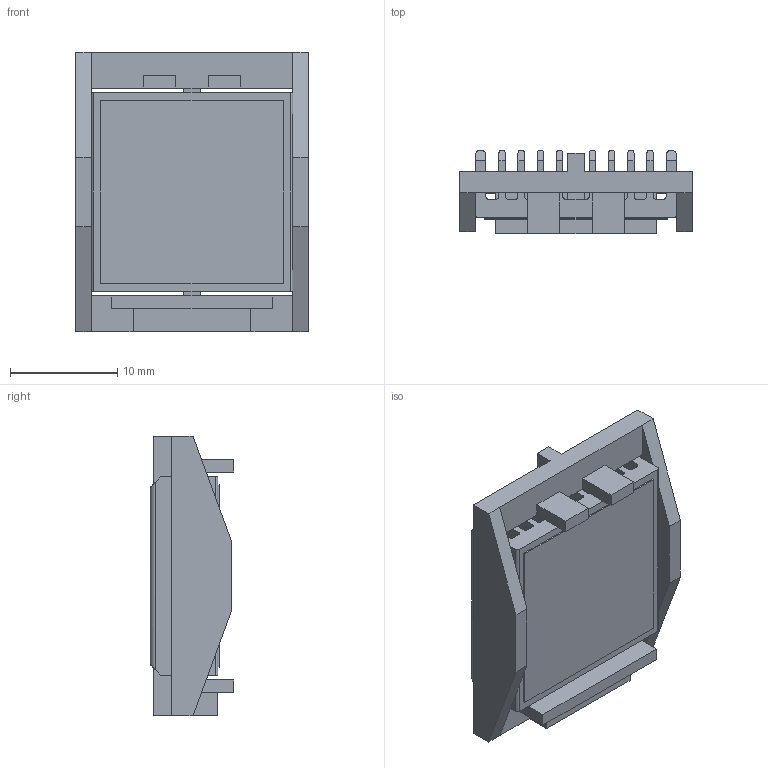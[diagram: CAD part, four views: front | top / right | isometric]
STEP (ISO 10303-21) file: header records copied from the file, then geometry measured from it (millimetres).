
FILE_DESCRIPTION (( 'STEP AP214' ), '1' );
FILE_NAME ('INL19001-6-1.7BU.STEP', '2023-02-20T23:51:50', ( '' ), ( '' ), 'SwSTEP 2.0', 'SolidWorks 2020', '' );
FILE_SCHEMA (( 'AUTOMOTIVE_DESIGN' ));
Length unit declared in the file: millimetre
Products named in the file (1): INL19001-6-1.7BU
Bounding box: 21.7 x 7.8 x 26.1 mm (x, y, z)
Volume: 2004.8 mm3; surface area: 4411.9 mm2
Topology: 3 solids, 3 shells, 136 faces, 392 edges, 260 vertices
Faces by surface type: plane 106, cylinder 30
Entity records: 5956 total; most frequent: CARTESIAN_POINT 849, ORIENTED_EDGE 784, DIRECTION 686, EDGE_CURVE 392, VECTOR 332, LINE 332, VERTEX_POINT 260, AXIS2_PLACEMENT_3D 177
